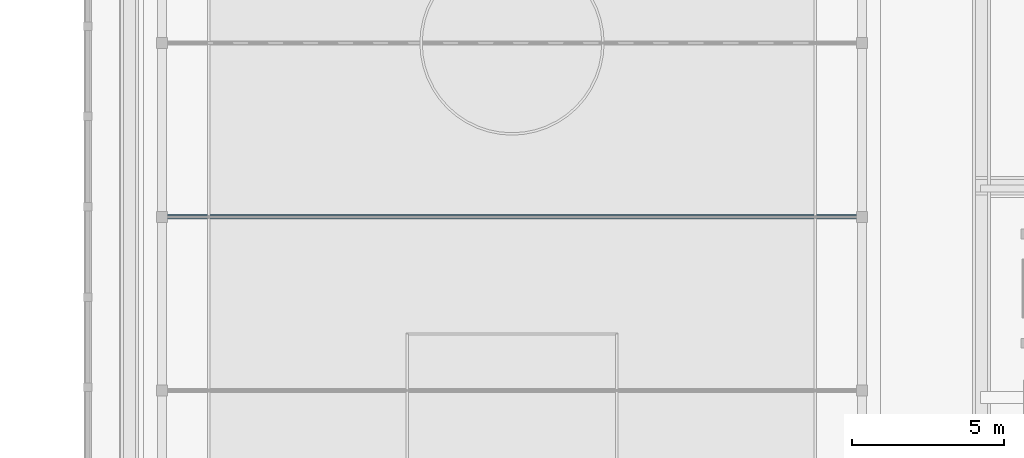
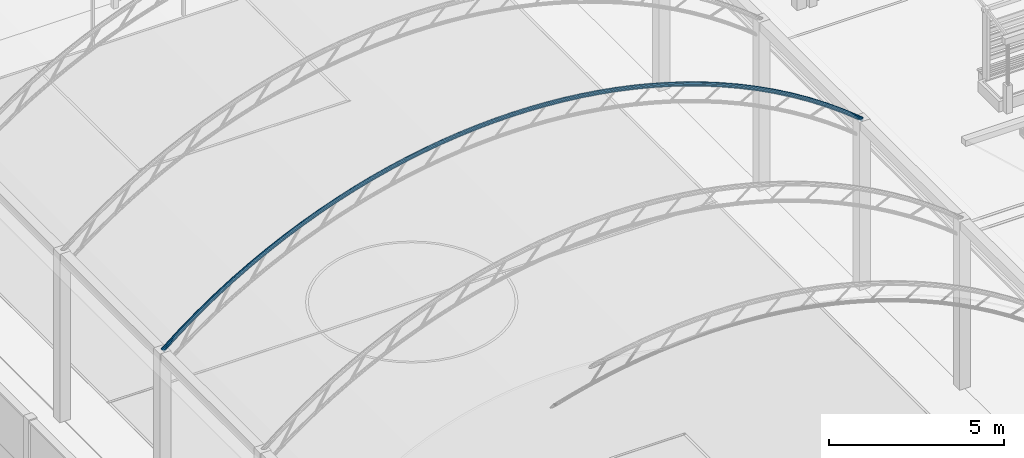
# One storey, part 23 of 177: 1 beam.
"""IFC4 building model written with IfcOpenShell, lengths in metres."""

from ifc_helpers import new_model, si_unit, origin, origin_with_axes, place, context, subcontext, project, spatial, triangles, element, save


model = new_model("IFC4")

# Units and contexts
model_context = context("Model", 3, precision=1e-05, world=origin_with_axes())
body_context = subcontext(model_context, "Body", "Model", "MODEL_VIEW")
ifc_project = project(units=[si_unit("LENGTHUNIT", "METRE"), si_unit("AREAUNIT", "SQUARE_METRE"), si_unit("VOLUMEUNIT", "CUBIC_METRE"), si_unit("PLANEANGLEUNIT", "RADIAN")], contexts=[model_context])

# Site, building, storey
site_placement = place(None, origin_with_axes())
site = spatial("IfcSite", under=ifc_project, at=site_placement, Name="Predio Los Mangos - Morales, San Martín", CompositionType="ELEMENT")
building_placement = place(site_placement, origin())
building = spatial("IfcBuilding", under=site, at=building_placement, Name="Hogar de Refugio Temporal", CompositionType="ELEMENT")
storey_placement = place(building_placement, origin())
storey = spatial("IfcBuildingStorey", under=building, at=storey_placement, Name="NIVEL 1 (NPT +0.00)", CompositionType="ELEMENT", Elevation=0.0)

# Beam
beam_placement = place(storey_placement, origin())
element("IfcBeam", 1, at=beam_placement, inside=storey, Name="arco", ObjectType="Viga", PredefinedType="BEAM", context=body_context, shape_type="Tessellation", body=[
    triangles([(3.4781, 104.1273, 5.9773), (3.462, 104.1017, 5.9973), (3.4562, 104.0667, 6.0046), (3.462, 104.0317, 5.9973), (3.4781, 104.006, 5.9773), (3.5, 103.9967, 5.95), (3.5219, 104.006, 5.9227), (3.538, 104.0317, 5.9027), (3.5438, 104.0667, 5.8954), (3.538, 104.1017, 5.9027), (3.5219, 104.1273, 5.9227), (3.5, 104.1367, 5.95), (4.0561, 104.1273, 6.4418), (4.0405, 104.1017, 6.4621), (4.0348, 104.0667, 6.4695), (4.0405, 104.0317, 6.4621), (4.0561, 104.006, 6.4418), (4.0775, 103.9967, 6.4141), (4.0989, 104.006, 6.3864), (4.1145, 104.0317, 6.3661), (4.1202, 104.0667, 6.3586), (4.1145, 104.1017, 6.3661), (4.0989, 104.1273, 6.3864), (4.0775, 104.1367, 6.4141), (4.6348, 104.1273, 6.8694), (4.6199, 104.1017, 6.8903), (4.6145, 104.0667, 6.8979), (4.6199, 104.0317, 6.8903), (4.6348, 104.006, 6.8694), (4.655, 103.9967, 6.8408), (4.6752, 104.006, 6.8123), (4.6901, 104.0317, 6.7914), (4.6955, 104.0667, 6.7837), (4.6901, 104.1017, 6.7914), (4.6752, 104.1273, 6.8123), (4.655, 104.1367, 6.8408), (5.2134, 104.1273, 7.2627), (5.1994, 104.1017, 7.2841), (5.1943, 104.0667, 7.292), (5.1994, 104.0317, 7.2841), (5.2134, 104.006, 7.2627), (5.2325, 103.9967, 7.2333), (5.2516, 104.006, 7.204), (5.2656, 104.0317, 7.1826), (5.2707, 104.0667, 7.1747), (5.2656, 104.1017, 7.1826), (5.2516, 104.1273, 7.204), (5.2325, 104.1367, 7.2333), (5.792, 104.1273, 7.6243), (5.7788, 104.1017, 7.6463), (5.774, 104.0667, 7.6543), (5.7788, 104.0317, 7.6463), (5.792, 104.006, 7.6243), (5.81, 103.9967, 7.5943), (5.828, 104.006, 7.5643), (5.8412, 104.0317, 7.5423), (5.846, 104.0667, 7.5343), (5.8412, 104.1017, 7.5423), (5.828, 104.1273, 7.5643), (5.81, 104.1367, 7.5943), (6.3706, 104.1273, 7.9565), (6.3583, 104.1017, 7.979), (6.3538, 104.0667, 7.9872), (6.3583, 104.0317, 7.979), (6.3706, 104.006, 7.9565), (6.3875, 103.9967, 7.9259), (6.4044, 104.006, 7.8952), (6.4167, 104.0317, 7.8727), (6.4212, 104.0667, 7.8645), (6.4167, 104.1017, 7.8727), (6.4044, 104.1273, 7.8952), (6.3875, 104.1367, 7.9259), (6.9493, 104.1273, 8.2611), (6.9377, 104.1017, 8.284), (6.9335, 104.0667, 8.2923), (6.9377, 104.0317, 8.284), (6.9493, 104.006, 8.2611), (6.965, 103.9967, 8.2298), (6.9807, 104.006, 8.1986), (6.9923, 104.0317, 8.1757), (6.9965, 104.0667, 8.1673), (6.9923, 104.1017, 8.1757), (6.9807, 104.1273, 8.1986), (6.965, 104.1367, 8.2298), (7.5279, 104.1273, 8.5395), (7.5172, 104.1017, 8.5628), (7.5133, 104.0667, 8.5713), (7.5172, 104.0317, 8.5628), (7.5279, 104.006, 8.5395), (7.5425, 103.9967, 8.5077), (7.5571, 104.006, 8.4759), (7.5678, 104.0317, 8.4527), (7.5717, 104.0667, 8.4441), (7.5678, 104.1017, 8.4527), (7.5571, 104.1273, 8.4759), (7.5425, 104.1367, 8.5077), (8.1065, 104.1273, 8.7932), (8.0966, 104.1017, 8.8169), (8.093, 104.0667, 8.8255), (8.0966, 104.0317, 8.8169), (8.1065, 104.006, 8.7932), (8.12, 103.9967, 8.7609), (8.1335, 104.006, 8.7286), (8.1434, 104.0317, 8.705), (8.147, 104.0667, 8.6963), (8.1434, 104.1017, 8.705), (8.1335, 104.1273, 8.7286), (8.12, 104.1367, 8.7609), (8.6851, 104.1273, 9.0232), (8.6761, 104.1017, 9.0472), (8.6728, 104.0667, 9.056), (8.6761, 104.0317, 9.0472), (8.6851, 104.006, 9.0232), (8.6975, 103.9967, 8.9905), (8.7099, 104.006, 8.9578), (8.7189, 104.0317, 8.9338), (8.7222, 104.0667, 8.925), (8.7189, 104.1017, 8.9338), (8.7099, 104.1273, 8.9578), (8.6975, 104.1367, 8.9905), (9.2638, 104.1273, 9.2305), (9.2555, 104.1017, 9.2548), (9.2525, 104.0667, 9.2637), (9.2555, 104.0317, 9.2548), (9.2638, 104.006, 9.2305), (9.275, 103.9967, 9.1974), (9.2862, 104.006, 9.1642), (9.2945, 104.0317, 9.14), (9.2975, 104.0667, 9.1311), (9.2945, 104.1017, 9.14), (9.2862, 104.1273, 9.1642), (9.275, 104.1367, 9.1974), (9.8424, 104.1273, 9.416), (9.835, 104.1017, 9.4405), (9.8323, 104.0667, 9.4495), (9.835, 104.0317, 9.4405), (9.8424, 104.006, 9.416), (9.8525, 103.9967, 9.3824), (9.8626, 104.006, 9.3489), (9.87, 104.0317, 9.3244), (9.8727, 104.0667, 9.3154), (9.87, 104.1017, 9.3244), (9.8626, 104.1273, 9.3489), (9.8525, 104.1367, 9.3824), (10.421, 104.1273, 9.5802), (10.4144, 104.1017, 9.6049), (10.412, 104.0667, 9.614), (10.4144, 104.0317, 9.6049), (10.421, 104.006, 9.5802), (10.43, 103.9967, 9.5463), (10.439, 104.006, 9.5125), (10.4456, 104.0317, 9.4878), (10.448, 104.0667, 9.4787), (10.4456, 104.1017, 9.4878), (10.439, 104.1273, 9.5125), (10.43, 104.1367, 9.5463), (10.9996, 104.1273, 9.7238), (10.9939, 104.1017, 9.7488), (10.9918, 104.0667, 9.7579), (10.9939, 104.0317, 9.7488), (10.9996, 104.006, 9.7238), (11.0075, 103.9967, 9.6897), (11.0154, 104.006, 9.6556), (11.0211, 104.0317, 9.6306), (11.0232, 104.0667, 9.6215), (11.0211, 104.1017, 9.6306), (11.0154, 104.1273, 9.6556), (11.0075, 104.1367, 9.6897), (11.5783, 104.1273, 9.8473), (11.5733, 104.1017, 9.8725), (11.5715, 104.0667, 9.8817), (11.5733, 104.0317, 9.8725), (11.5783, 104.006, 9.8473), (11.585, 103.9967, 9.813), (11.5917, 104.006, 9.7786), (11.5967, 104.0317, 9.7535), (11.5985, 104.0667, 9.7443), (11.5967, 104.1017, 9.7535), (11.5917, 104.1273, 9.7786), (11.585, 104.1367, 9.813), (12.1569, 104.1273, 9.9512), (12.1528, 104.1017, 9.9765), (12.1513, 104.0667, 9.9857), (12.1528, 104.0317, 9.9765), (12.1569, 104.006, 9.9512), (12.1625, 103.9967, 9.9166), (12.1681, 104.006, 9.8821), (12.1722, 104.0317, 9.8568), (12.1737, 104.0667, 9.8476), (12.1722, 104.1017, 9.8568), (12.1681, 104.1273, 9.8821), (12.1625, 104.1367, 9.9166), (12.7355, 104.1273, 10.0357), (12.7322, 104.1017, 10.0611), (12.731, 104.0667, 10.0704), (12.7322, 104.0317, 10.0611), (12.7355, 104.006, 10.0357), (12.74, 103.9967, 10.001), (12.7445, 104.006, 9.9663), (12.7478, 104.0317, 9.9409), (12.749, 104.0667, 9.9316), (12.7478, 104.1017, 9.9409), (12.7445, 104.1273, 9.9663), (12.74, 104.1367, 10.001), (13.3141, 104.1273, 10.1012), (13.3117, 104.1017, 10.1267), (13.3108, 104.0667, 10.136), (13.3117, 104.0317, 10.1267), (13.3141, 104.006, 10.1012), (13.3175, 103.9967, 10.0663), (13.3209, 104.006, 10.0315), (13.3233, 104.0317, 10.006), (13.3242, 104.0667, 9.9967), (13.3233, 104.1017, 10.006), (13.3209, 104.1273, 10.0315), (13.3175, 104.1367, 10.0663), (13.8928, 104.1273, 10.1478), (13.8911, 104.1017, 10.1734), (13.8905, 104.0667, 10.1827), (13.8911, 104.0317, 10.1734), (13.8928, 104.006, 10.1478), (13.895, 103.9967, 10.1129), (13.8972, 104.006, 10.0779), (13.8989, 104.0317, 10.0524), (13.8995, 104.0667, 10.043), (13.8989, 104.1017, 10.0524), (13.8972, 104.1273, 10.0779), (13.895, 104.1367, 10.1129), (14.4714, 104.1273, 10.1757), (14.4706, 104.1017, 10.2013), (14.4703, 104.0667, 10.2107), (14.4706, 104.0317, 10.2013), (14.4714, 104.006, 10.1757), (14.4725, 103.9967, 10.1407), (14.4736, 104.006, 10.1057), (14.4744, 104.0317, 10.0801), (14.4747, 104.0667, 10.0708), (14.4744, 104.1017, 10.0801), (14.4736, 104.1273, 10.1057), (14.4725, 104.1367, 10.1407), (15.05, 104.1273, 10.185), (15.05, 104.1017, 10.2106), (15.05, 104.0667, 10.22), (15.05, 104.0317, 10.2106), (15.05, 104.006, 10.185), (15.05, 103.9967, 10.15), (15.05, 104.006, 10.115), (15.05, 104.0317, 10.0894), (15.05, 104.0667, 10.08), (15.05, 104.1017, 10.0894), (15.05, 104.1273, 10.115), (15.05, 104.1367, 10.15), (15.6286, 104.1273, 10.1757), (15.6294, 104.1017, 10.2013), (15.6297, 104.0667, 10.2107), (15.6294, 104.0317, 10.2013), (15.6286, 104.006, 10.1757), (15.6275, 103.9967, 10.1407), (15.6264, 104.006, 10.1057), (15.6256, 104.0317, 10.0801), (15.6253, 104.0667, 10.0708), (15.6256, 104.1017, 10.0801), (15.6264, 104.1273, 10.1057), (15.6275, 104.1367, 10.1407), (16.2072, 104.1273, 10.1478), (16.2089, 104.1017, 10.1734), (16.2095, 104.0667, 10.1827), (16.2089, 104.0317, 10.1734), (16.2072, 104.006, 10.1478), (16.205, 103.9967, 10.1129), (16.2028, 104.006, 10.0779), (16.2011, 104.0317, 10.0524), (16.2005, 104.0667, 10.043), (16.2011, 104.1017, 10.0524), (16.2028, 104.1273, 10.0779), (16.205, 104.1367, 10.1129), (16.7859, 104.1273, 10.1012), (16.7883, 104.1017, 10.1267), (16.7892, 104.0667, 10.136), (16.7883, 104.0317, 10.1267), (16.7859, 104.006, 10.1012), (16.7825, 103.9967, 10.0663), (16.7791, 104.006, 10.0315), (16.7767, 104.0317, 10.006), (16.7758, 104.0667, 9.9967), (16.7767, 104.1017, 10.006), (16.7791, 104.1273, 10.0315), (16.7825, 104.1367, 10.0663), (17.3645, 104.1273, 10.0357), (17.3678, 104.1017, 10.0611), (17.369, 104.0667, 10.0704), (17.3678, 104.0317, 10.0611), (17.3645, 104.006, 10.0357), (17.36, 103.9967, 10.001), (17.3555, 104.006, 9.9663), (17.3522, 104.0317, 9.9409), (17.351, 104.0667, 9.9316), (17.3522, 104.1017, 9.9409), (17.3555, 104.1273, 9.9663), (17.36, 104.1367, 10.001), (17.9431, 104.1273, 9.9512), (17.9472, 104.1017, 9.9765), (17.9487, 104.0667, 9.9857), (17.9472, 104.0317, 9.9765), (17.9431, 104.006, 9.9512), (17.9375, 103.9967, 9.9166), (17.9319, 104.006, 9.8821), (17.9278, 104.0317, 9.8568), (17.9263, 104.0667, 9.8476), (17.9278, 104.1017, 9.8568), (17.9319, 104.1273, 9.8821), (17.9375, 104.1367, 9.9166), (18.5217, 104.1273, 9.8473), (18.5267, 104.1017, 9.8725), (18.5285, 104.0667, 9.8817), (18.5267, 104.0317, 9.8725), (18.5217, 104.006, 9.8473), (18.515, 103.9967, 9.813), (18.5083, 104.006, 9.7786), (18.5033, 104.0317, 9.7535), (18.5015, 104.0667, 9.7443), (18.5033, 104.1017, 9.7535), (18.5083, 104.1273, 9.7786), (18.515, 104.1367, 9.813), (19.1004, 104.1273, 9.7238), (19.1061, 104.1017, 9.7488), (19.1082, 104.0667, 9.7579), (19.1061, 104.0317, 9.7488), (19.1004, 104.006, 9.7238), (19.0925, 103.9967, 9.6897), (19.0846, 104.006, 9.6556), (19.0789, 104.0317, 9.6306), (19.0768, 104.0667, 9.6215), (19.0789, 104.1017, 9.6306), (19.0846, 104.1273, 9.6556), (19.0925, 104.1367, 9.6897), (19.679, 104.1273, 9.5802), (19.6856, 104.1017, 9.6049), (19.688, 104.0667, 9.614), (19.6856, 104.0317, 9.6049), (19.679, 104.006, 9.5802), (19.67, 103.9967, 9.5463), (19.661, 104.006, 9.5125), (19.6544, 104.0317, 9.4878), (19.652, 104.0667, 9.4787), (19.6544, 104.1017, 9.4878), (19.661, 104.1273, 9.5125), (19.67, 104.1367, 9.5463), (20.2576, 104.1273, 9.416), (20.265, 104.1017, 9.4405), (20.2677, 104.0667, 9.4495), (20.265, 104.0317, 9.4405), (20.2576, 104.006, 9.416), (20.2475, 103.9967, 9.3824), (20.2374, 104.006, 9.3489), (20.23, 104.0317, 9.3244), (20.2273, 104.0667, 9.3154), (20.23, 104.1017, 9.3244), (20.2374, 104.1273, 9.3489), (20.2475, 104.1367, 9.3824), (20.8362, 104.1273, 9.2305), (20.8445, 104.1017, 9.2548), (20.8475, 104.0667, 9.2637), (20.8445, 104.0317, 9.2548), (20.8362, 104.006, 9.2305), (20.825, 103.9967, 9.1974), (20.8138, 104.006, 9.1642), (20.8055, 104.0317, 9.14), (20.8025, 104.0667, 9.1311), (20.8055, 104.1017, 9.14), (20.8138, 104.1273, 9.1642), (20.825, 104.1367, 9.1974), (21.4149, 104.1273, 9.0232), (21.4239, 104.1017, 9.0472), (21.4272, 104.0667, 9.056), (21.4239, 104.0317, 9.0472), (21.4149, 104.006, 9.0232), (21.4025, 103.9967, 8.9905), (21.3901, 104.006, 8.9578), (21.3811, 104.0317, 8.9338), (21.3778, 104.0667, 8.925), (21.3811, 104.1017, 8.9338), (21.3901, 104.1273, 8.9578), (21.4025, 104.1367, 8.9905), (21.9935, 104.1273, 8.7932), (22.0034, 104.1017, 8.8169), (22.007, 104.0667, 8.8255), (22.0034, 104.0317, 8.8169), (21.9935, 104.006, 8.7932), (21.98, 103.9967, 8.7609), (21.9665, 104.006, 8.7286), (21.9566, 104.0317, 8.705), (21.953, 104.0667, 8.6963), (21.9566, 104.1017, 8.705), (21.9665, 104.1273, 8.7286), (21.98, 104.1367, 8.7609), (22.5721, 104.1273, 8.5395), (22.5828, 104.1017, 8.5628), (22.5867, 104.0667, 8.5713), (22.5828, 104.0317, 8.5628), (22.5721, 104.006, 8.5395), (22.5575, 103.9967, 8.5077), (22.5429, 104.006, 8.4759), (22.5322, 104.0317, 8.4527), (22.5283, 104.0667, 8.4441), (22.5322, 104.1017, 8.4527), (22.5429, 104.1273, 8.4759), (22.5575, 104.1367, 8.5077), (23.1507, 104.1273, 8.2611), (23.1623, 104.1017, 8.284), (23.1665, 104.0667, 8.2923), (23.1623, 104.0317, 8.284), (23.1507, 104.006, 8.2611), (23.135, 103.9967, 8.2298), (23.1193, 104.006, 8.1986), (23.1077, 104.0317, 8.1757), (23.1035, 104.0667, 8.1673), (23.1077, 104.1017, 8.1757), (23.1193, 104.1273, 8.1986), (23.135, 104.1367, 8.2298), (23.7294, 104.1273, 7.9565), (23.7417, 104.1017, 7.979), (23.7462, 104.0667, 7.9872), (23.7417, 104.0317, 7.979), (23.7294, 104.006, 7.9565), (23.7125, 103.9967, 7.9259), (23.6956, 104.006, 7.8952), (23.6833, 104.0317, 7.8727), (23.6788, 104.0667, 7.8645), (23.6833, 104.1017, 7.8727), (23.6956, 104.1273, 7.8952), (23.7125, 104.1367, 7.9259), (24.308, 104.1273, 7.6243), (24.3212, 104.1017, 7.6463), (24.326, 104.0667, 7.6543), (24.3212, 104.0317, 7.6463), (24.308, 104.006, 7.6243), (24.29, 103.9967, 7.5943), (24.272, 104.006, 7.5643), (24.2588, 104.0317, 7.5423), (24.254, 104.0667, 7.5343), (24.2588, 104.1017, 7.5423), (24.272, 104.1273, 7.5643), (24.29, 104.1367, 7.5943), (24.8866, 104.1273, 7.2627), (24.9006, 104.1017, 7.2841), (24.9057, 104.0667, 7.292), (24.9006, 104.0317, 7.2841), (24.8866, 104.006, 7.2627), (24.8675, 103.9967, 7.2333), (24.8484, 104.006, 7.204), (24.8344, 104.0317, 7.1826), (24.8293, 104.0667, 7.1747), (24.8344, 104.1017, 7.1826), (24.8484, 104.1273, 7.204), (24.8675, 104.1367, 7.2333), (25.4652, 104.1273, 6.8694), (25.4801, 104.1017, 6.8903), (25.4855, 104.0667, 6.8979), (25.4801, 104.0317, 6.8903), (25.4652, 104.006, 6.8694), (25.445, 103.9967, 6.8408), (25.4248, 104.006, 6.8123), (25.4099, 104.0317, 6.7914), (25.4045, 104.0667, 6.7837), (25.4099, 104.1017, 6.7914), (25.4248, 104.1273, 6.8123), (25.445, 104.1367, 6.8408), (26.0439, 104.1273, 6.4418), (26.0595, 104.1017, 6.4621), (26.0652, 104.0667, 6.4695), (26.0595, 104.0317, 6.4621), (26.0439, 104.006, 6.4418), (26.0225, 103.9967, 6.4141), (26.0011, 104.006, 6.3864), (25.9855, 104.0317, 6.3661), (25.9798, 104.0667, 6.3586), (25.9855, 104.1017, 6.3661), (26.0011, 104.1273, 6.3864), (26.0225, 104.1367, 6.4141), (26.6219, 104.1273, 5.9773), (26.638, 104.1017, 5.9973), (26.6438, 104.0667, 6.0046), (26.638, 104.0317, 5.9973), (26.6219, 104.006, 5.9773), (26.6, 103.9967, 5.95), (26.5781, 104.006, 5.9227), (26.562, 104.0317, 5.9027), (26.5562, 104.0667, 5.8954), (26.562, 104.1017, 5.9027), (26.5781, 104.1273, 5.9227), (26.6, 104.1367, 5.95)], [[1, 13, 24], [1, 24, 12], [2, 14, 13], [2, 13, 1], [3, 15, 14], [3, 14, 2], [4, 16, 15], [4, 15, 3], [5, 17, 16], [5, 16, 4], [6, 18, 17], [6, 17, 5], [7, 19, 18], [7, 18, 6], [8, 20, 19], [8, 19, 7], [9, 21, 20], [9, 20, 8], [10, 22, 21], [10, 21, 9], [11, 23, 22], [11, 22, 10], [12, 24, 23], [12, 23, 11], [13, 25, 36], [13, 36, 24], [14, 26, 25], [14, 25, 13], [15, 27, 26], [15, 26, 14], [16, 28, 27], [16, 27, 15], [17, 29, 28], [17, 28, 16], [18, 30, 29], [18, 29, 17], [19, 31, 30], [19, 30, 18], [20, 32, 31], [20, 31, 19], [21, 33, 32], [21, 32, 20], [22, 34, 33], [22, 33, 21], [23, 35, 34], [23, 34, 22], [24, 36, 35], [24, 35, 23], [25, 37, 48], [25, 48, 36], [26, 38, 37], [26, 37, 25], [27, 39, 38], [27, 38, 26], [28, 40, 39], [28, 39, 27], [29, 41, 40], [29, 40, 28], [30, 42, 41], [30, 41, 29], [31, 43, 42], [31, 42, 30], [32, 44, 43], [32, 43, 31], [33, 45, 44], [33, 44, 32], [34, 46, 45], [34, 45, 33], [35, 47, 46], [35, 46, 34], [36, 48, 47], [36, 47, 35], [37, 49, 60], [37, 60, 48], [38, 50, 49], [38, 49, 37], [39, 51, 50], [39, 50, 38], [40, 52, 51], [40, 51, 39], [41, 53, 52], [41, 52, 40], [42, 54, 53], [42, 53, 41], [43, 55, 54], [43, 54, 42], [44, 56, 55], [44, 55, 43], [45, 57, 56], [45, 56, 44], [46, 58, 57], [46, 57, 45], [47, 59, 58], [47, 58, 46], [48, 60, 59], [48, 59, 47], [49, 61, 72], [49, 72, 60], [50, 62, 61], [50, 61, 49], [51, 63, 62], [51, 62, 50], [52, 64, 63], [52, 63, 51], [53, 65, 64], [53, 64, 52], [54, 66, 65], [54, 65, 53], [55, 67, 66], [55, 66, 54], [56, 68, 67], [56, 67, 55], [57, 69, 68], [57, 68, 56], [58, 70, 69], [58, 69, 57], [59, 71, 70], [59, 70, 58], [60, 72, 71], [60, 71, 59], [61, 73, 84], [61, 84, 72], [62, 74, 73], [62, 73, 61], [63, 75, 74], [63, 74, 62], [64, 76, 75], [64, 75, 63], [65, 77, 76], [65, 76, 64], [66, 78, 77], [66, 77, 65], [67, 79, 78], [67, 78, 66], [68, 80, 79], [68, 79, 67], [69, 81, 80], [69, 80, 68], [70, 82, 81], [70, 81, 69], [71, 83, 82], [71, 82, 70], [72, 84, 83], [72, 83, 71], [73, 85, 96], [73, 96, 84], [74, 86, 85], [74, 85, 73], [75, 87, 86], [75, 86, 74], [76, 88, 87], [76, 87, 75], [77, 89, 88], [77, 88, 76], [78, 90, 89], [78, 89, 77], [79, 91, 90], [79, 90, 78], [80, 92, 91], [80, 91, 79], [81, 93, 92], [81, 92, 80], [82, 94, 93], [82, 93, 81], [83, 95, 94], [83, 94, 82], [84, 96, 95], [84, 95, 83], [85, 97, 108], [85, 108, 96], [86, 98, 97], [86, 97, 85], [87, 99, 98], [87, 98, 86], [88, 100, 99], [88, 99, 87], [89, 101, 100], [89, 100, 88], [90, 102, 101], [90, 101, 89], [91, 103, 102], [91, 102, 90], [92, 104, 103], [92, 103, 91], [93, 105, 104], [93, 104, 92], [94, 106, 105], [94, 105, 93], [95, 107, 106], [95, 106, 94], [96, 108, 107], [96, 107, 95], [97, 109, 120], [97, 120, 108], [98, 110, 109], [98, 109, 97], [99, 111, 110], [99, 110, 98], [100, 112, 111], [100, 111, 99], [101, 113, 112], [101, 112, 100], [102, 114, 113], [102, 113, 101], [103, 115, 114], [103, 114, 102], [104, 116, 115], [104, 115, 103], [105, 117, 116], [105, 116, 104], [106, 118, 117], [106, 117, 105], [107, 119, 118], [107, 118, 106], [108, 120, 119], [108, 119, 107], [109, 121, 132], [109, 132, 120], [110, 122, 121], [110, 121, 109], [111, 123, 122], [111, 122, 110], [112, 124, 123], [112, 123, 111], [113, 125, 124], [113, 124, 112], [114, 126, 125], [114, 125, 113], [115, 127, 126], [115, 126, 114], [116, 128, 127], [116, 127, 115], [117, 129, 128], [117, 128, 116], [118, 130, 129], [118, 129, 117], [119, 131, 130], [119, 130, 118], [120, 132, 131], [120, 131, 119], [121, 133, 144], [121, 144, 132], [122, 134, 133], [122, 133, 121], [123, 135, 134], [123, 134, 122], [124, 136, 135], [124, 135, 123], [125, 137, 136], [125, 136, 124], [126, 138, 137], [126, 137, 125], [127, 139, 138], [127, 138, 126], [128, 140, 139], [128, 139, 127], [129, 141, 140], [129, 140, 128], [130, 142, 141], [130, 141, 129], [131, 143, 142], [131, 142, 130], [132, 144, 143], [132, 143, 131], [133, 145, 156], [133, 156, 144], [134, 146, 145], [134, 145, 133], [135, 147, 146], [135, 146, 134], [136, 148, 147], [136, 147, 135], [137, 149, 148], [137, 148, 136], [138, 150, 149], [138, 149, 137], [139, 151, 150], [139, 150, 138], [140, 152, 151], [140, 151, 139], [141, 153, 152], [141, 152, 140], [142, 154, 153], [142, 153, 141], [143, 155, 154], [143, 154, 142], [144, 156, 155], [144, 155, 143], [145, 157, 168], [145, 168, 156], [146, 158, 157], [146, 157, 145], [147, 159, 158], [147, 158, 146], [148, 160, 159], [148, 159, 147], [149, 161, 160], [149, 160, 148], [150, 162, 161], [150, 161, 149], [151, 163, 162], [151, 162, 150], [152, 164, 163], [152, 163, 151], [153, 165, 164], [153, 164, 152], [154, 166, 165], [154, 165, 153], [155, 167, 166], [155, 166, 154], [156, 168, 167], [156, 167, 155], [157, 169, 180], [157, 180, 168], [158, 170, 169], [158, 169, 157], [159, 171, 170], [159, 170, 158], [160, 172, 171], [160, 171, 159], [161, 173, 172], [161, 172, 160], [162, 174, 173], [162, 173, 161], [163, 175, 174], [163, 174, 162], [164, 176, 175], [164, 175, 163], [165, 177, 176], [165, 176, 164], [166, 178, 177], [166, 177, 165], [167, 179, 178], [167, 178, 166], [168, 180, 179], [168, 179, 167], [169, 181, 192], [169, 192, 180], [170, 182, 181], [170, 181, 169], [171, 183, 182], [171, 182, 170], [172, 184, 183], [172, 183, 171], [173, 185, 184], [173, 184, 172], [174, 186, 185], [174, 185, 173], [175, 187, 186], [175, 186, 174], [176, 188, 187], [176, 187, 175], [177, 189, 188], [177, 188, 176], [178, 190, 189], [178, 189, 177], [179, 191, 190], [179, 190, 178], [180, 192, 191], [180, 191, 179], [181, 193, 204], [181, 204, 192], [182, 194, 193], [182, 193, 181], [183, 195, 194], [183, 194, 182], [184, 196, 195], [184, 195, 183], [185, 197, 196], [185, 196, 184], [186, 198, 197], [186, 197, 185], [187, 199, 198], [187, 198, 186], [188, 200, 199], [188, 199, 187], [189, 201, 200], [189, 200, 188], [190, 202, 201], [190, 201, 189], [191, 203, 202], [191, 202, 190], [192, 204, 203], [192, 203, 191], [193, 205, 216], [193, 216, 204], [194, 206, 205], [194, 205, 193], [195, 207, 206], [195, 206, 194], [196, 208, 207], [196, 207, 195], [197, 209, 208], [197, 208, 196], [198, 210, 209], [198, 209, 197], [199, 211, 210], [199, 210, 198], [200, 212, 211], [200, 211, 199], [201, 213, 212], [201, 212, 200], [202, 214, 213], [202, 213, 201], [203, 215, 214], [203, 214, 202], [204, 216, 215], [204, 215, 203], [205, 217, 228], [205, 228, 216], [206, 218, 217], [206, 217, 205], [207, 219, 218], [207, 218, 206], [208, 220, 219], [208, 219, 207], [209, 221, 220], [209, 220, 208], [210, 222, 221], [210, 221, 209], [211, 223, 222], [211, 222, 210], [212, 224, 223], [212, 223, 211], [213, 225, 224], [213, 224, 212], [214, 226, 225], [214, 225, 213], [215, 227, 226], [215, 226, 214], [216, 228, 227], [216, 227, 215], [217, 229, 240], [217, 240, 228], [218, 230, 229], [218, 229, 217], [219, 231, 230], [219, 230, 218], [220, 232, 231], [220, 231, 219], [221, 233, 232], [221, 232, 220], [222, 234, 233], [222, 233, 221], [223, 235, 234], [223, 234, 222], [224, 236, 235], [224, 235, 223], [225, 237, 236], [225, 236, 224], [226, 238, 237], [226, 237, 225], [227, 239, 238], [227, 238, 226], [228, 240, 239], [228, 239, 227], [229, 241, 252], [229, 252, 240], [230, 242, 241], [230, 241, 229], [231, 243, 242], [231, 242, 230], [232, 244, 243], [232, 243, 231], [233, 245, 244], [233, 244, 232], [234, 246, 245], [234, 245, 233], [235, 247, 246], [235, 246, 234], [236, 248, 247], [236, 247, 235], [237, 249, 248], [237, 248, 236], [238, 250, 249], [238, 249, 237], [239, 251, 250], [239, 250, 238], [240, 252, 251], [240, 251, 239], [241, 253, 264], [241, 264, 252], [242, 254, 253], [242, 253, 241], [243, 255, 254], [243, 254, 242], [244, 256, 255], [244, 255, 243], [245, 257, 256], [245, 256, 244], [246, 258, 257], [246, 257, 245], [247, 259, 258], [247, 258, 246], [248, 260, 259], [248, 259, 247], [249, 261, 260], [249, 260, 248], [250, 262, 261], [250, 261, 249], [251, 263, 262], [251, 262, 250], [252, 264, 263], [252, 263, 251], [253, 265, 276], [253, 276, 264], [254, 266, 265], [254, 265, 253], [255, 267, 266], [255, 266, 254], [256, 268, 267], [256, 267, 255], [257, 269, 268], [257, 268, 256], [258, 270, 269], [258, 269, 257], [259, 271, 270], [259, 270, 258], [260, 272, 271], [260, 271, 259], [261, 273, 272], [261, 272, 260], [262, 274, 273], [262, 273, 261], [263, 275, 274], [263, 274, 262], [264, 276, 275], [264, 275, 263], [265, 277, 288], [265, 288, 276], [266, 278, 277], [266, 277, 265], [267, 279, 278], [267, 278, 266], [268, 280, 279], [268, 279, 267], [269, 281, 280], [269, 280, 268], [270, 282, 281], [270, 281, 269], [271, 283, 282], [271, 282, 270], [272, 284, 283], [272, 283, 271], [273, 285, 284], [273, 284, 272], [274, 286, 285], [274, 285, 273], [275, 287, 286], [275, 286, 274], [276, 288, 287], [276, 287, 275], [277, 289, 300], [277, 300, 288], [278, 290, 289], [278, 289, 277], [279, 291, 290], [279, 290, 278], [280, 292, 291], [280, 291, 279], [281, 293, 292], [281, 292, 280], [282, 294, 293], [282, 293, 281], [283, 295, 294], [283, 294, 282], [284, 296, 295], [284, 295, 283], [285, 297, 296], [285, 296, 284], [286, 298, 297], [286, 297, 285], [287, 299, 298], [287, 298, 286], [288, 300, 299], [288, 299, 287], [289, 301, 312], [289, 312, 300], [290, 302, 301], [290, 301, 289], [291, 303, 302], [291, 302, 290], [292, 304, 303], [292, 303, 291], [293, 305, 304], [293, 304, 292], [294, 306, 305], [294, 305, 293], [295, 307, 306], [295, 306, 294], [296, 308, 307], [296, 307, 295], [297, 309, 308], [297, 308, 296], [298, 310, 309], [298, 309, 297], [299, 311, 310], [299, 310, 298], [300, 312, 311], [300, 311, 299], [301, 313, 324], [301, 324, 312], [302, 314, 313], [302, 313, 301], [303, 315, 314], [303, 314, 302], [304, 316, 315], [304, 315, 303], [305, 317, 316], [305, 316, 304], [306, 318, 317], [306, 317, 305], [307, 319, 318], [307, 318, 306], [308, 320, 319], [308, 319, 307], [309, 321, 320], [309, 320, 308], [310, 322, 321], [310, 321, 309], [311, 323, 322], [311, 322, 310], [312, 324, 323], [312, 323, 311], [313, 325, 336], [313, 336, 324], [314, 326, 325], [314, 325, 313], [315, 327, 326], [315, 326, 314], [316, 328, 327], [316, 327, 315], [317, 329, 328], [317, 328, 316], [318, 330, 329], [318, 329, 317], [319, 331, 330], [319, 330, 318], [320, 332, 331], [320, 331, 319], [321, 333, 332], [321, 332, 320], [322, 334, 333], [322, 333, 321], [323, 335, 334], [323, 334, 322], [324, 336, 335], [324, 335, 323], [325, 337, 348], [325, 348, 336], [326, 338, 337], [326, 337, 325], [327, 339, 338], [327, 338, 326], [328, 340, 339], [328, 339, 327], [329, 341, 340], [329, 340, 328], [330, 342, 341], [330, 341, 329], [331, 343, 342], [331, 342, 330], [332, 344, 343], [332, 343, 331], [333, 345, 344], [333, 344, 332], [334, 346, 345], [334, 345, 333], [335, 347, 346], [335, 346, 334], [336, 348, 347], [336, 347, 335], [337, 349, 360], [337, 360, 348], [338, 350, 349], [338, 349, 337], [339, 351, 350], [339, 350, 338], [340, 352, 351], [340, 351, 339], [341, 353, 352], [341, 352, 340], [342, 354, 353], [342, 353, 341], [343, 355, 354], [343, 354, 342], [344, 356, 355], [344, 355, 343], [345, 357, 356], [345, 356, 344], [346, 358, 357], [346, 357, 345], [347, 359, 358], [347, 358, 346], [348, 360, 359], [348, 359, 347], [349, 361, 372], [349, 372, 360], [350, 362, 361], [350, 361, 349], [351, 363, 362], [351, 362, 350], [352, 364, 363], [352, 363, 351], [353, 365, 364], [353, 364, 352], [354, 366, 365], [354, 365, 353], [355, 367, 366], [355, 366, 354], [356, 368, 367], [356, 367, 355], [357, 369, 368], [357, 368, 356], [358, 370, 369], [358, 369, 357], [359, 371, 370], [359, 370, 358], [360, 372, 371], [360, 371, 359], [361, 373, 384], [361, 384, 372], [362, 374, 373], [362, 373, 361], [363, 375, 374], [363, 374, 362], [364, 376, 375], [364, 375, 363], [365, 377, 376], [365, 376, 364], [366, 378, 377], [366, 377, 365], [367, 379, 378], [367, 378, 366], [368, 380, 379], [368, 379, 367], [369, 381, 380], [369, 380, 368], [370, 382, 381], [370, 381, 369], [371, 383, 382], [371, 382, 370], [372, 384, 383], [372, 383, 371], [373, 385, 396], [373, 396, 384], [374, 386, 385], [374, 385, 373], [375, 387, 386], [375, 386, 374], [376, 388, 387], [376, 387, 375], [377, 389, 388], [377, 388, 376], [378, 390, 389], [378, 389, 377], [379, 391, 390], [379, 390, 378], [380, 392, 391], [380, 391, 379], [381, 393, 392], [381, 392, 380], [382, 394, 393], [382, 393, 381], [383, 395, 394], [383, 394, 382], [384, 396, 395], [384, 395, 383], [385, 397, 408], [385, 408, 396], [386, 398, 397], [386, 397, 385], [387, 399, 398], [387, 398, 386], [388, 400, 399], [388, 399, 387], [389, 401, 400], [389, 400, 388], [390, 402, 401], [390, 401, 389], [391, 403, 402], [391, 402, 390], [392, 404, 403], [392, 403, 391], [393, 405, 404], [393, 404, 392], [394, 406, 405], [394, 405, 393], [395, 407, 406], [395, 406, 394], [396, 408, 407], [396, 407, 395], [397, 409, 420], [397, 420, 408], [398, 410, 409], [398, 409, 397], [399, 411, 410], [399, 410, 398], [400, 412, 411], [400, 411, 399], [401, 413, 412], [401, 412, 400], [402, 414, 413], [402, 413, 401], [403, 415, 414], [403, 414, 402], [404, 416, 415], [404, 415, 403], [405, 417, 416], [405, 416, 404], [406, 418, 417], [406, 417, 405], [407, 419, 418], [407, 418, 406], [408, 420, 419], [408, 419, 407], [409, 421, 432], [409, 432, 420], [410, 422, 421], [410, 421, 409], [411, 423, 422], [411, 422, 410], [412, 424, 423], [412, 423, 411], [413, 425, 424], [413, 424, 412], [414, 426, 425], [414, 425, 413], [415, 427, 426], [415, 426, 414], [416, 428, 427], [416, 427, 415], [417, 429, 428], [417, 428, 416], [418, 430, 429], [418, 429, 417], [419, 431, 430], [419, 430, 418], [420, 432, 431], [420, 431, 419], [421, 433, 444], [421, 444, 432], [422, 434, 433], [422, 433, 421], [423, 435, 434], [423, 434, 422], [424, 436, 435], [424, 435, 423], [425, 437, 436], [425, 436, 424], [426, 438, 437], [426, 437, 425], [427, 439, 438], [427, 438, 426], [428, 440, 439], [428, 439, 427], [429, 441, 440], [429, 440, 428], [430, 442, 441], [430, 441, 429], [431, 443, 442], [431, 442, 430], [432, 444, 443], [432, 443, 431], [433, 445, 456], [433, 456, 444], [434, 446, 445], [434, 445, 433], [435, 447, 446], [435, 446, 434], [436, 448, 447], [436, 447, 435], [437, 449, 448], [437, 448, 436], [438, 450, 449], [438, 449, 437], [439, 451, 450], [439, 450, 438], [440, 452, 451], [440, 451, 439], [441, 453, 452], [441, 452, 440], [442, 454, 453], [442, 453, 441], [443, 455, 454], [443, 454, 442], [444, 456, 455], [444, 455, 443], [445, 457, 468], [445, 468, 456], [446, 458, 457], [446, 457, 445], [447, 459, 458], [447, 458, 446], [448, 460, 459], [448, 459, 447], [449, 461, 460], [449, 460, 448], [450, 462, 461], [450, 461, 449], [451, 463, 462], [451, 462, 450], [452, 464, 463], [452, 463, 451], [453, 465, 464], [453, 464, 452], [454, 466, 465], [454, 465, 453], [455, 467, 466], [455, 466, 454], [456, 468, 467], [456, 467, 455], [457, 469, 480], [457, 480, 468], [458, 470, 469], [458, 469, 457], [459, 471, 470], [459, 470, 458], [460, 472, 471], [460, 471, 459], [461, 473, 472], [461, 472, 460], [462, 474, 473], [462, 473, 461], [463, 475, 474], [463, 474, 462], [464, 476, 475], [464, 475, 463], [465, 477, 476], [465, 476, 464], [466, 478, 477], [466, 477, 465], [467, 479, 478], [467, 478, 466], [468, 480, 479], [468, 479, 467], [469, 481, 492], [469, 492, 480], [470, 482, 481], [470, 481, 469], [471, 483, 482], [471, 482, 470], [472, 484, 483], [472, 483, 471], [473, 485, 484], [473, 484, 472], [474, 486, 485], [474, 485, 473], [475, 487, 486], [475, 486, 474], [476, 488, 487], [476, 487, 475], [477, 489, 488], [477, 488, 476], [478, 490, 489], [478, 489, 477], [479, 491, 490], [479, 490, 478], [480, 492, 491], [480, 491, 479]]),
])

save(model, "model.ifc")
